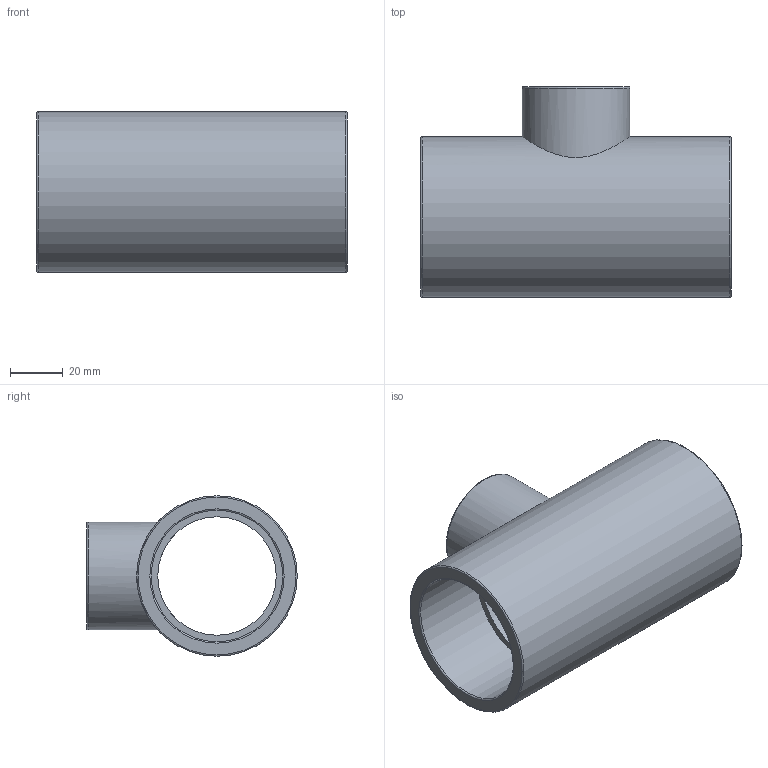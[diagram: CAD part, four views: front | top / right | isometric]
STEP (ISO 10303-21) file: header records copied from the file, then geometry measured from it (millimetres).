
FILE_DESCRIPTION(/* description */ ('PLASSON REDUCER TEE - CEMENT PVC 50-32-50'),/* implementation_level */ '2;1');
FILE_NAME(/* name */ 'C:\Dropbox\KIMPROJECTS-Inventor\99-16-3568-Processing\PVC Catalog 2017\051400\051400050032.ipt.stp',/* time_stamp */ '2017-12-07T16:00:20+02:00',/* author */ ('KIM'),/* organization */ (''),/* preprocessor_version */ 'ST-DEVELOPER v15.6',/* originating_system */ 'Autodesk Inventor 2015',/* authorisation */ '');
FILE_SCHEMA (('AUTOMOTIVE_DESIGN { 1 0 10303 214 3 1 1 }'));
Length unit declared in the file: millimetre
Products named in the file (1): 051400050032
Bounding box: 118 x 80 x 61 mm (x, y, z)
Volume: 139764.8 mm3; surface area: 47130.3 mm2
Topology: 1 solids, 1 shells, 19 faces, 39 edges, 24 vertices
Faces by surface type: cylinder 7, torus 6, plane 6
Full cylindrical faces by diameter (mm): 28.8 x1, 32 x1, 41 x1, 45 x1, 50 x2, 61 x1
Entity records: 534 total; most frequent: CARTESIAN_POINT 174, DIRECTION 76, EDGE_LOOP 40, ORIENTED_EDGE 40, AXIS2_PLACEMENT_3D 38, FACE_BOUND 21, VERTEX_POINT 20, EDGE_CURVE 20
